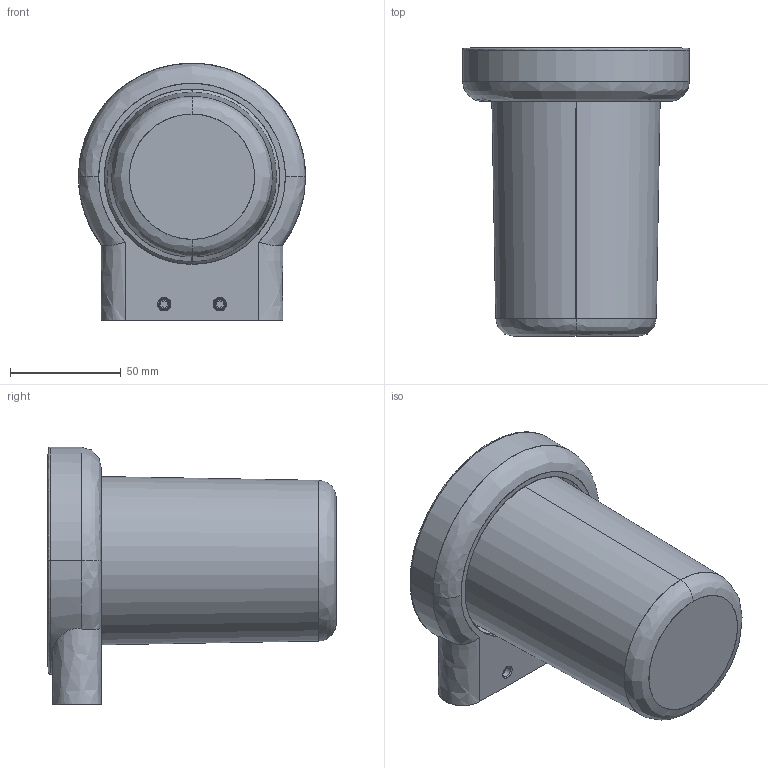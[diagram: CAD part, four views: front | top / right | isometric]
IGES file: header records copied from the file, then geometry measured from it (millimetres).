
Start section: SolidWorks IGES file using analytic representation for surfaces
Global section: file name: G:\Projects\New project\For Marketing\689-Archibest\235##53.IGS; native system: SolidWorks 2016; preprocessor: SolidWorks 2016; author: merry; date: 190411.151052; units: millimetre
Bounding box: 102.4 x 130 x 116.2 mm (x, y, z)
Surface area: 92620.4 mm2 (no closed solid volume)
Topology: 0 solids, 0 shells, 248 faces, 3279 edges, 3271 vertices
Faces by surface type: revolution 135, bspline 113
